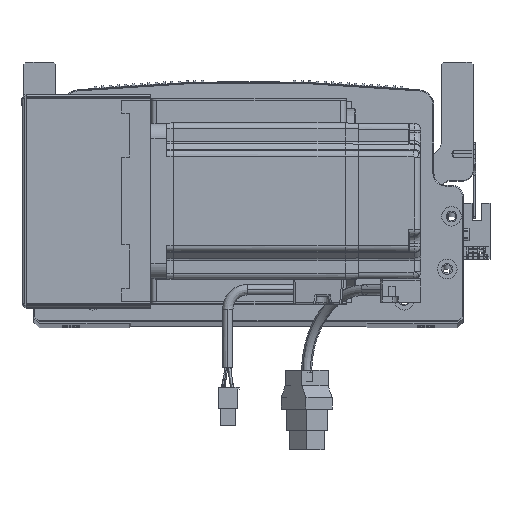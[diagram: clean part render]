
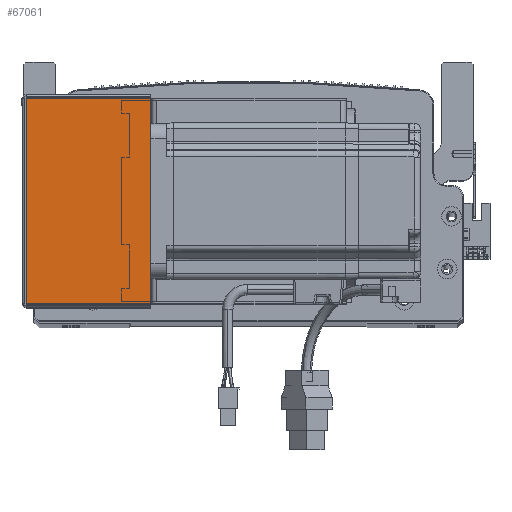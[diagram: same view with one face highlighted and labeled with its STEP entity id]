
A CAD part, top view. The second image highlights one B-rep face of the part: STEP entity #67061.
In plain terms, the highlighted planar face has unit normal (0, 0, 1) as drawn and (0, 0, -1) by its records, which use the part's own axes.
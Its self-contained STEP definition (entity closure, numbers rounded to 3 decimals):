
#2782 = ORIENTED_EDGE ( 'NONE', *, *, #45580, .T. ) ;
#9602 = VECTOR ( 'NONE', #17667, 1000. ) ;
#10871 = VECTOR ( 'NONE', #72775, 1000. ) ;
#15905 = LINE ( 'NONE', #71003, #9602 ) ;
#16780 = LINE ( 'NONE', #23780, #86025 ) ;
#17667 = DIRECTION ( 'NONE',  ( 0., -1., 0. ) ) ;
#23201 = VERTEX_POINT ( 'NONE', #72655 ) ;
#23575 = AXIS2_PLACEMENT_3D ( 'NONE', #82809, #56441, #42655 ) ;
#23780 = CARTESIAN_POINT ( 'NONE',  ( 0.737, 0., -205.5 ) ) ;
#24144 = EDGE_CURVE ( 'NONE', #23201, #38052, #46528, .T. ) ;
#29957 = CARTESIAN_POINT ( 'NONE',  ( 0., 105.293, -205.5 ) ) ;
#34028 = ORIENTED_EDGE ( 'NONE', *, *, #24144, .T. ) ;
#34402 = EDGE_LOOP ( 'NONE', ( #53148, #34028, #2782, #85657 ) ) ;
#35860 = PLANE ( 'NONE',  #23575 ) ;
#38052 = VERTEX_POINT ( 'NONE', #41125 ) ;
#39592 = EDGE_CURVE ( 'NONE', #44851, #83986, #69921, .T. ) ;
#41125 = CARTESIAN_POINT ( 'NONE',  ( 64.5, 105.293, -205.5 ) ) ;
#42655 = DIRECTION ( 'NONE',  ( 1., 0., 0. ) ) ;
#43768 = CARTESIAN_POINT ( 'NONE',  ( 64.5, 0.707, -205.5 ) ) ;
#44008 = DIRECTION ( 'NONE',  ( 1., 0., 0. ) ) ;
#44851 = VERTEX_POINT ( 'NONE', #83063 ) ;
#45580 = EDGE_CURVE ( 'NONE', #38052, #83986, #15905, .T. ) ;
#46528 = LINE ( 'NONE', #29957, #10871 ) ;
#52660 = FACE_OUTER_BOUND ( 'NONE', #34402, .T. ) ;
#53148 = ORIENTED_EDGE ( 'NONE', *, *, #65107, .F. ) ;
#56441 = DIRECTION ( 'NONE',  ( 0., 0., 1. ) ) ;
#64755 = VECTOR ( 'NONE', #44008, 1000. ) ;
#64861 = CARTESIAN_POINT ( 'NONE',  ( 0., 0.707, -205.5 ) ) ;
#65107 = EDGE_CURVE ( 'NONE', #23201, #44851, #16780, .T. ) ;
#67061 = ADVANCED_FACE ( 'NONE', ( #52660 ), #35860, .F. ) ;
#69921 = LINE ( 'NONE', #64861, #64755 ) ;
#70383 = DIRECTION ( 'NONE',  ( 0., -1., 0. ) ) ;
#71003 = CARTESIAN_POINT ( 'NONE',  ( 64.5, 0., -205.5 ) ) ;
#72655 = CARTESIAN_POINT ( 'NONE',  ( 0.737, 105.293, -205.5 ) ) ;
#72775 = DIRECTION ( 'NONE',  ( 1., 0., 0. ) ) ;
#82809 = CARTESIAN_POINT ( 'NONE',  ( 0., 0., -205.5 ) ) ;
#83063 = CARTESIAN_POINT ( 'NONE',  ( 0.737, 0.707, -205.5 ) ) ;
#83986 = VERTEX_POINT ( 'NONE', #43768 ) ;
#85657 = ORIENTED_EDGE ( 'NONE', *, *, #39592, .F. ) ;
#86025 = VECTOR ( 'NONE', #70383, 1000. ) ;
